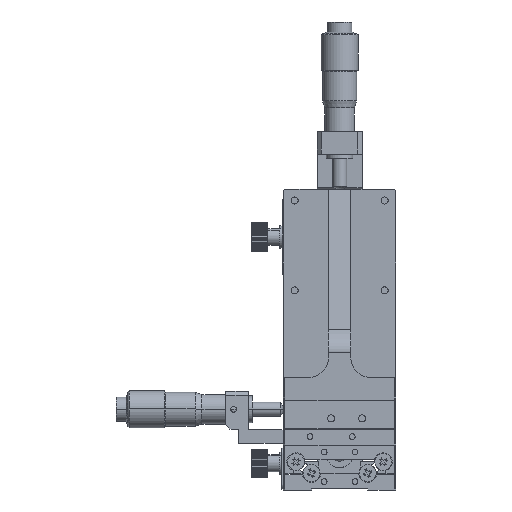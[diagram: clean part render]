
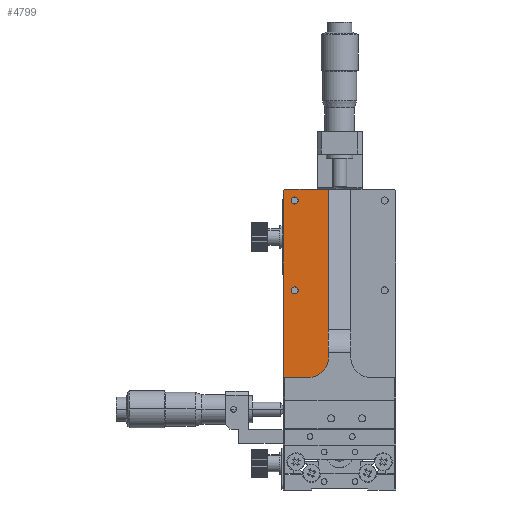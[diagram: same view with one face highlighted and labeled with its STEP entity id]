
A CAD part, left-side view. The second image highlights one B-rep face of the part: STEP entity #4799.
In plain terms, the highlighted planar face has unit normal (-1, 0, 0) as drawn and (0, 0, 1) by its records, which use the part's own axes.
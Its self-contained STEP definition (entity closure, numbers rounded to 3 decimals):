
#53 = DIRECTION ( 'NONE',  ( 0., 0., 1. ) ) ;
#191 = CIRCLE ( 'NONE', #11594, 7. ) ;
#402 = DIRECTION ( 'NONE',  ( -1., 0., 0. ) ) ;
#418 = CARTESIAN_POINT ( 'NONE',  ( -19.5, 75., -25. ) ) ;
#440 = CARTESIAN_POINT ( 'NONE',  ( -20., 8., -25. ) ) ;
#585 = CARTESIAN_POINT ( 'NONE',  ( -16., 71., -25. ) ) ;
#668 = CIRCLE ( 'NONE', #8801, 1.25 ) ;
#678 = DIRECTION ( 'NONE',  ( 0., 0., 1. ) ) ;
#1001 = VECTOR ( 'NONE', #12502, 1000. ) ;
#1881 = CARTESIAN_POINT ( 'NONE',  ( -20., 74.5, -25. ) ) ;
#1913 = CARTESIAN_POINT ( 'NONE',  ( -14.75, 71., -25. ) ) ;
#1981 = CARTESIAN_POINT ( 'NONE',  ( -17.25, 71., -25. ) ) ;
#2098 = VECTOR ( 'NONE', #11980, 1000. ) ;
#2249 = VERTEX_POINT ( 'NONE', #3196 ) ;
#2713 = VECTOR ( 'NONE', #15833, 1000. ) ;
#2784 = CARTESIAN_POINT ( 'NONE',  ( -19.5, 75., -25. ) ) ;
#2824 = CARTESIAN_POINT ( 'NONE',  ( -4., 75., -25. ) ) ;
#2854 = ORIENTED_EDGE ( 'NONE', *, *, #10906, .F. ) ;
#2907 = FACE_BOUND ( 'NONE', #13999, .T. ) ;
#3109 = EDGE_CURVE ( 'NONE', #2249, #7707, #5286, .T. ) ;
#3155 = AXIS2_PLACEMENT_3D ( 'NONE', #6452, #9620, #7984 ) ;
#3196 = CARTESIAN_POINT ( 'NONE',  ( -11., 8., -25. ) ) ;
#3228 = DIRECTION ( 'NONE',  ( 0., 0., 1. ) ) ;
#3297 = ORIENTED_EDGE ( 'NONE', *, *, #10937, .F. ) ;
#3486 = VERTEX_POINT ( 'NONE', #1981 ) ;
#3513 = VECTOR ( 'NONE', #17885, 1000. ) ;
#4311 = FACE_BOUND ( 'NONE', #14021, .T. ) ;
#4799 = ADVANCED_FACE ( 'NONE', ( #2907, #4311, #13001 ), #14098, .F. ) ;
#4812 = ORIENTED_EDGE ( 'NONE', *, *, #18964, .T. ) ;
#4948 = ORIENTED_EDGE ( 'NONE', *, *, #3109, .F. ) ;
#4961 = CARTESIAN_POINT ( 'NONE',  ( -17.25, 39., -25. ) ) ;
#5286 = LINE ( 'NONE', #12694, #2713 ) ;
#5300 = DIRECTION ( 'NONE',  ( -1., 0., 0. ) ) ;
#5316 = CIRCLE ( 'NONE', #12082, 1.25 ) ;
#5963 = CARTESIAN_POINT ( 'NONE',  ( -20., 75., -25. ) ) ;
#6010 = VERTEX_POINT ( 'NONE', #1913 ) ;
#6452 = CARTESIAN_POINT ( 'NONE',  ( -16., 39., -25. ) ) ;
#6936 = VECTOR ( 'NONE', #5300, 1000. ) ;
#6972 = EDGE_CURVE ( 'NONE', #19423, #7707, #8928, .T. ) ;
#7069 = AXIS2_PLACEMENT_3D ( 'NONE', #8099, #18632, #402 ) ;
#7214 = VERTEX_POINT ( 'NONE', #4961 ) ;
#7648 = LINE ( 'NONE', #17459, #6936 ) ;
#7707 = VERTEX_POINT ( 'NONE', #440 ) ;
#7855 = VERTEX_POINT ( 'NONE', #2784 ) ;
#7916 = DIRECTION ( 'NONE',  ( 1., 0., 0. ) ) ;
#7984 = DIRECTION ( 'NONE',  ( 1., 0., 0. ) ) ;
#8016 = AXIS2_PLACEMENT_3D ( 'NONE', #585, #3228, #14201 ) ;
#8099 = CARTESIAN_POINT ( 'NONE',  ( -4., 75., -25. ) ) ;
#8100 = CARTESIAN_POINT ( 'NONE',  ( -16., 71., -25. ) ) ;
#8534 = ORIENTED_EDGE ( 'NONE', *, *, #18206, .F. ) ;
#8801 = AXIS2_PLACEMENT_3D ( 'NONE', #8100, #9418, #7916 ) ;
#8928 = LINE ( 'NONE', #5963, #3513 ) ;
#9418 = DIRECTION ( 'NONE',  ( 0., 0., 1. ) ) ;
#9430 = CIRCLE ( 'NONE', #8016, 1.25 ) ;
#9620 = DIRECTION ( 'NONE',  ( 0., 0., 1. ) ) ;
#9885 = ORIENTED_EDGE ( 'NONE', *, *, #11172, .F. ) ;
#10307 = ORIENTED_EDGE ( 'NONE', *, *, #17743, .T. ) ;
#10535 = VERTEX_POINT ( 'NONE', #11774 ) ;
#10906 = EDGE_CURVE ( 'NONE', #7214, #10535, #16644, .T. ) ;
#10937 = EDGE_CURVE ( 'NONE', #6010, #3486, #668, .T. ) ;
#10938 = EDGE_CURVE ( 'NONE', #2249, #18061, #191, .T. ) ;
#11172 = EDGE_CURVE ( 'NONE', #19319, #18061, #19256, .T. ) ;
#11594 = AXIS2_PLACEMENT_3D ( 'NONE', #18634, #678, #18505 ) ;
#11774 = CARTESIAN_POINT ( 'NONE',  ( -14.75, 39., -25. ) ) ;
#11924 = EDGE_LOOP ( 'NONE', ( #4812, #10307, #18720, #4948, #18291, #9885 ) ) ;
#11980 = DIRECTION ( 'NONE',  ( 0., -1., 0. ) ) ;
#12082 = AXIS2_PLACEMENT_3D ( 'NONE', #18141, #53, #18197 ) ;
#12502 = DIRECTION ( 'NONE',  ( -0.707, -0.707, 0. ) ) ;
#12694 = CARTESIAN_POINT ( 'NONE',  ( -4., 8., -25. ) ) ;
#13001 = FACE_OUTER_BOUND ( 'NONE', #11924, .T. ) ;
#13999 = EDGE_LOOP ( 'NONE', ( #3297, #17640 ) ) ;
#14021 = EDGE_LOOP ( 'NONE', ( #8534, #2854 ) ) ;
#14098 = PLANE ( 'NONE',  #7069 ) ;
#14201 = DIRECTION ( 'NONE',  ( 1., 0., 0. ) ) ;
#14898 = LINE ( 'NONE', #418, #1001 ) ;
#15833 = DIRECTION ( 'NONE',  ( -1., 0., 0. ) ) ;
#16576 = EDGE_CURVE ( 'NONE', #3486, #6010, #9430, .T. ) ;
#16644 = CIRCLE ( 'NONE', #3155, 1.25 ) ;
#17459 = CARTESIAN_POINT ( 'NONE',  ( -4., 75., -25. ) ) ;
#17551 = CARTESIAN_POINT ( 'NONE',  ( -4., 15., -25. ) ) ;
#17640 = ORIENTED_EDGE ( 'NONE', *, *, #16576, .F. ) ;
#17743 = EDGE_CURVE ( 'NONE', #7855, #19423, #14898, .T. ) ;
#17885 = DIRECTION ( 'NONE',  ( 0., -1., 0. ) ) ;
#18061 = VERTEX_POINT ( 'NONE', #17551 ) ;
#18141 = CARTESIAN_POINT ( 'NONE',  ( -16., 39., -25. ) ) ;
#18197 = DIRECTION ( 'NONE',  ( 1., 0., 0. ) ) ;
#18206 = EDGE_CURVE ( 'NONE', #10535, #7214, #5316, .T. ) ;
#18254 = CARTESIAN_POINT ( 'NONE',  ( -4., 75., -25. ) ) ;
#18291 = ORIENTED_EDGE ( 'NONE', *, *, #10938, .T. ) ;
#18505 = DIRECTION ( 'NONE',  ( -1., 0., 0. ) ) ;
#18632 = DIRECTION ( 'NONE',  ( 0., 0., -1. ) ) ;
#18634 = CARTESIAN_POINT ( 'NONE',  ( -11., 15., -25. ) ) ;
#18720 = ORIENTED_EDGE ( 'NONE', *, *, #6972, .T. ) ;
#18964 = EDGE_CURVE ( 'NONE', #19319, #7855, #7648, .T. ) ;
#19256 = LINE ( 'NONE', #2824, #2098 ) ;
#19319 = VERTEX_POINT ( 'NONE', #18254 ) ;
#19423 = VERTEX_POINT ( 'NONE', #1881 ) ;
